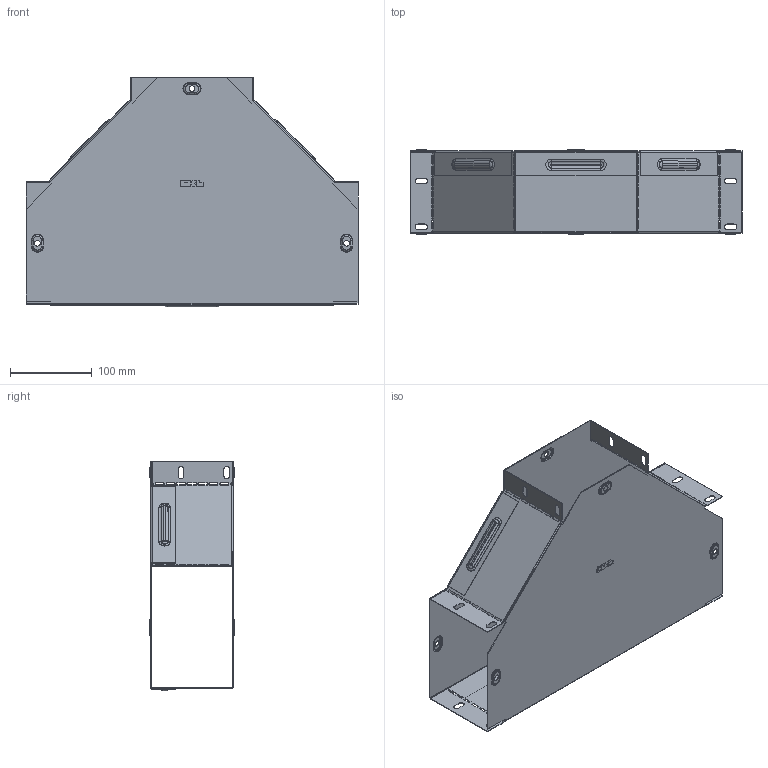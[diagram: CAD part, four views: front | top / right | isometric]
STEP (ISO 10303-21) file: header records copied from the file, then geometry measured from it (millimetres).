
FILE_DESCRIPTION (( 'STEP AP214' ), '1' );
FILE_NAME ('t10015008_捘.STEP', '2019-06-10T08:08:48', ( '砐錪賧瘔蠈錪 Windows' ), ( '' ), 'SwSTEP 2.0', 'SolidWorks 2018', '' );
FILE_SCHEMA (( 'AUTOMOTIVE_DESIGN' ));
Length unit declared in the file: millimetre
Products named in the file (1): t10015008_捘
Bounding box: 406.4 x 103.8 x 281 mm (x, y, z)
Volume: 217997.6 mm3; surface area: 549209.8 mm2
Topology: 2 solids, 2 shells, 780 faces, 2280 edges, 1484 vertices
Faces by surface type: plane 442, cylinder 224, torus 96, bspline 18
Entity records: 26969 total; most frequent: CARTESIAN_POINT 5625, ORIENTED_EDGE 4560, DIRECTION 4362, EDGE_CURVE 2280, LINE 1652, VECTOR 1652, VERTEX_POINT 1484, AXIS2_PLACEMENT_3D 1355
